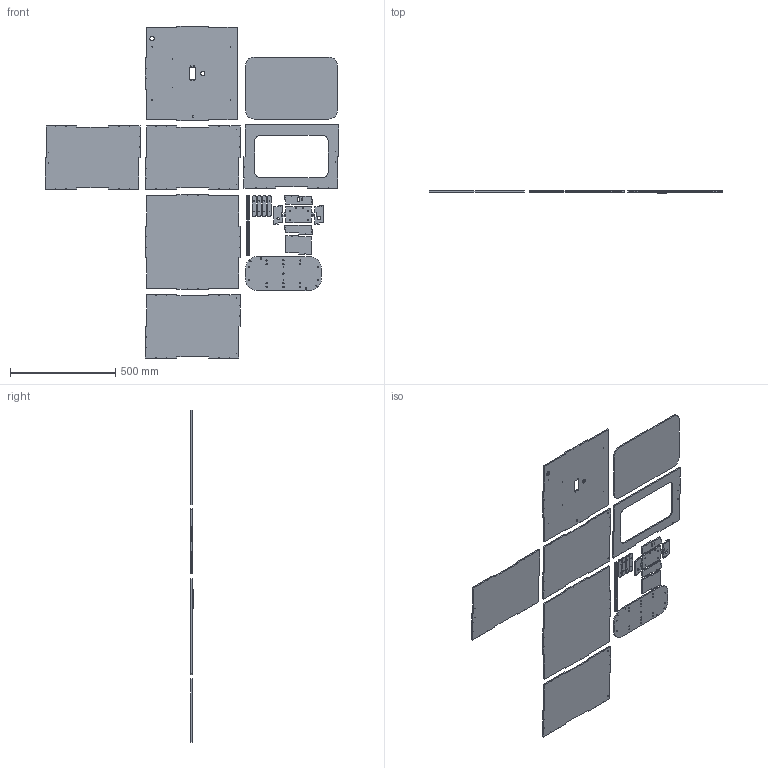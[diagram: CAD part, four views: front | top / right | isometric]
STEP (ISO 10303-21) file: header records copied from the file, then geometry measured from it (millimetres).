
FILE_DESCRIPTION(/* description */ (''),/* implementation_level */ '2;1');
FILE_NAME(/* name */ '/Users/leslieshaw/Desktop/SF_1.4_ABS_cut.step',/* time_stamp */ '2018-08-31T03:01:39-07:00',/* author */ ('leslieshaw1023'),/* organization */ (''),/* preprocessor_version */ 'ST-DEVELOPER v17.2',/* originating_system */ 'Autodesk Translation Framework v7.6.0.251',/* authorisation */ '');
FILE_SCHEMA (('AUTOMOTIVE_DESIGN { 1 0 10303 214 3 1 1 }'));
Length unit declared in the file: millimetre
Products named in the file (4): SF_1.4_cut; servo control box abs v10; roundtable mount; plate
Assembly tree (3 placements, depth 3):
  SF_1.4_cut
    servo control box abs v10
    roundtable mount
      plate
Bounding box: 1393 x 12 x 1574 mm (x, y, z)
Volume: 6414234.8 mm3; surface area: 2252334.8 mm2
Topology: 20 solids, 20 shells, 428 faces, 1154 edges, 766 vertices
Faces by surface type: plane 248, cylinder 174, cone 6
Full cylindrical faces by diameter (mm): 2.5 x84, 3 x26, 3.135 x6, 3.505 x4, 5 x6, 5.5 x16, 7 x1, 11 x1, 20 x2
Entity records: 14137 total; most frequent: DIRECTION 2374, CARTESIAN_POINT 2355, ORIENTED_EDGE 2308, EDGE_CURVE 1154, LINE 804, VECTOR 804, AXIS2_PLACEMENT_3D 785, VERTEX_POINT 766
